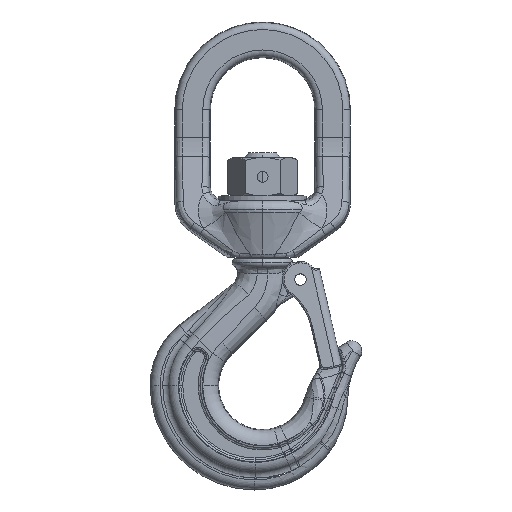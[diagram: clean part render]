
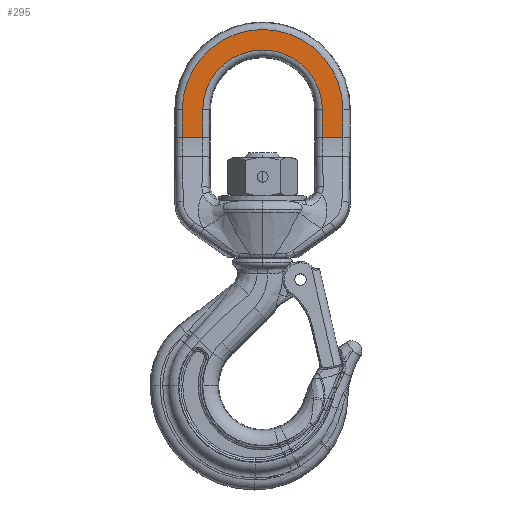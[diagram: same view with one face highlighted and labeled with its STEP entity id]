
A CAD part, top view. The second image highlights one B-rep face of the part: STEP entity #295.
In plain terms, the highlighted planar face has unit normal (0, 0, 1).
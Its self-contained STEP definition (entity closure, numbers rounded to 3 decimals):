
#295=ADVANCED_FACE('',(#1239),#1240,.T.);
#1239=FACE_OUTER_BOUND('',#3891,.T.);
#1240=PLANE('',#3892);
#3891=EDGE_LOOP('',(#26833,#26834,#26835,#26836,#26837,#26838,#26839,#26840));
#3892=AXIS2_PLACEMENT_3D('',#26841,#26842,#26843);
#26833=ORIENTED_EDGE('',*,*,#30559,.T.);
#26834=ORIENTED_EDGE('',*,*,#30680,.T.);
#26835=ORIENTED_EDGE('',*,*,#30565,.T.);
#26836=ORIENTED_EDGE('',*,*,#30681,.T.);
#26837=ORIENTED_EDGE('',*,*,#30682,.T.);
#26838=ORIENTED_EDGE('',*,*,#30650,.T.);
#26839=ORIENTED_EDGE('',*,*,#30683,.T.);
#26840=ORIENTED_EDGE('',*,*,#30684,.T.);
#26841=CARTESIAN_POINT('',(-50.0,135.0,5.25));
#26842=DIRECTION('',(0.0,0.,1.0));
#26843=DIRECTION('',(0.0,-1.0,0.));
#30559=EDGE_CURVE('',#32559,#32557,#32560,.F.);
#30565=EDGE_CURVE('',#32570,#32571,#32572,.F.);
#30650=EDGE_CURVE('',#32711,#32716,#32718,.T.);
#30680=EDGE_CURVE('',#32557,#32570,#32770,.F.);
#30681=EDGE_CURVE('',#32571,#32771,#32772,.T.);
#30682=EDGE_CURVE('',#32771,#32711,#32773,.T.);
#30683=EDGE_CURVE('',#32716,#32774,#32775,.T.);
#30684=EDGE_CURVE('',#32774,#32559,#32776,.F.);
#32557=VERTEX_POINT('',#37178);
#32559=VERTEX_POINT('',#37180);
#32560=LINE('',#37181,#37182);
#32570=VERTEX_POINT('',#37194);
#32571=VERTEX_POINT('',#37195);
#32572=LINE('',#37196,#37197);
#32711=VERTEX_POINT('',#37845);
#32716=VERTEX_POINT('',#37851);
#32718=LINE('',#37853,#37854);
#32770=LINE('',#38110,#38111);
#32771=VERTEX_POINT('',#38112);
#32772=CIRCLE('',#38113,29.25);
#32773=LINE('',#38114,#38115);
#32774=VERTEX_POINT('',#38116);
#32775=LINE('',#38117,#38118);
#32776=CIRCLE('',#38119,21.803);
#37178=CARTESIAN_POINT('',(21.803,90.515,5.25));
#37180=CARTESIAN_POINT('',(21.803,100.5,5.25));
#37181=CARTESIAN_POINT('',(21.803,90.515,5.25));
#37182=VECTOR('',#52906,9.985);
#37194=CARTESIAN_POINT('',(29.25,90.515,5.25));
#37195=CARTESIAN_POINT('',(29.25,100.5,5.25));
#37196=CARTESIAN_POINT('',(29.25,100.5,5.25));
#37197=VECTOR('',#52918,9.985);
#37845=CARTESIAN_POINT('',(-29.25,90.515,5.25));
#37851=CARTESIAN_POINT('',(-21.803,90.515,5.25));
#37853=CARTESIAN_POINT('',(-29.25,90.515,5.25));
#37854=VECTOR('',#53013,7.447);
#38110=CARTESIAN_POINT('',(29.25,90.515,5.25));
#38111=VECTOR('',#53053,7.447);
#38112=CARTESIAN_POINT('',(-29.25,100.5,5.25));
#38113=AXIS2_PLACEMENT_3D('',#53054,#53055,#53056);
#38114=CARTESIAN_POINT('',(-29.25,100.5,5.25));
#38115=VECTOR('',#53057,9.985);
#38116=CARTESIAN_POINT('',(-21.803,100.5,5.25));
#38117=CARTESIAN_POINT('',(-21.803,90.515,5.25));
#38118=VECTOR('',#53058,9.985);
#38119=AXIS2_PLACEMENT_3D('',#53059,#53060,#53061);
#52906=DIRECTION('',(0.0,1.0,0.));
#52918=DIRECTION('',(0.0,-1.0,0.));
#53013=DIRECTION('',(1.0,0.0,0.0));
#53053=DIRECTION('',(-1.0,0.0,0.0));
#53054=CARTESIAN_POINT('',(0.,100.5,5.25));
#53055=DIRECTION('',(0.0,0.,1.0));
#53056=DIRECTION('',(0.0,-1.0,0.));
#53057=DIRECTION('',(0.0,-1.0,0.));
#53058=DIRECTION('',(0.0,1.0,0.));
#53059=CARTESIAN_POINT('',(0.,100.5,5.25));
#53060=DIRECTION('',(0.0,0.,1.0));
#53061=DIRECTION('',(0.0,-1.0,0.));
